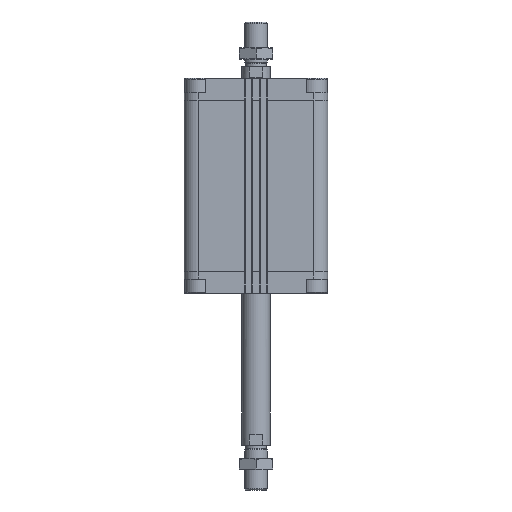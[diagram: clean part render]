
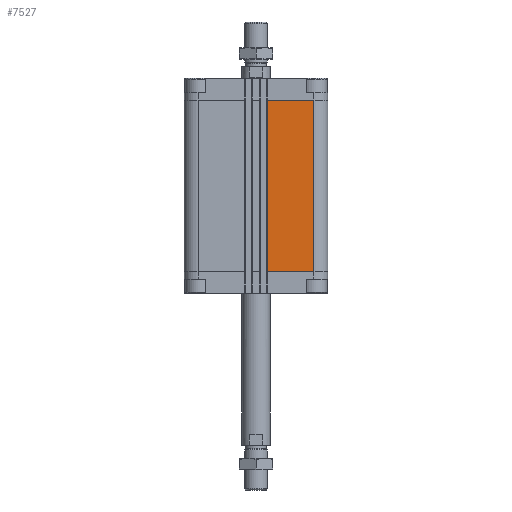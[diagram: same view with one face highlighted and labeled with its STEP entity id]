
A CAD part, front view. The second image highlights one B-rep face of the part: STEP entity #7527.
In plain terms, the highlighted planar face has unit normal (0, -1, 0).
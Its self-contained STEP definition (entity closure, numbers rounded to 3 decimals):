
#121 = EDGE_CURVE ( 'NONE', #14618, #20278, #10190, .T. ) ;
#2041 = DIRECTION ( 'NONE',  ( 0., 0., 1. ) ) ;
#3444 = CARTESIAN_POINT ( 'NONE',  ( 51.5, -64., -172. ) ) ;
#4201 = ORIENTED_EDGE ( 'NONE', *, *, #121, .T. ) ;
#4490 = EDGE_CURVE ( 'NONE', #14618, #13882, #16380, .T. ) ;
#4864 = DIRECTION ( 'NONE',  ( -1., 0., 0. ) ) ;
#5070 = VECTOR ( 'NONE', #12918, 1000. ) ;
#6779 = ORIENTED_EDGE ( 'NONE', *, *, #11709, .F. ) ;
#7527 = ADVANCED_FACE ( 'NONE', ( #18851 ), #17108, .T. ) ;
#8440 = DIRECTION ( 'NONE',  ( 1., 0., 0. ) ) ;
#9874 = LINE ( 'NONE', #18608, #15830 ) ;
#10032 = CARTESIAN_POINT ( 'NONE',  ( 9.95, -64., -19.5 ) ) ;
#10068 = CARTESIAN_POINT ( 'NONE',  ( 9.95, -64., -172. ) ) ;
#10190 = LINE ( 'NONE', #10068, #14759 ) ;
#10244 = VERTEX_POINT ( 'NONE', #11658 ) ;
#11409 = DIRECTION ( 'NONE',  ( 1., 0., 0. ) ) ;
#11658 = CARTESIAN_POINT ( 'NONE',  ( 51.5, -64., -19.5 ) ) ;
#11709 = EDGE_CURVE ( 'NONE', #13882, #10244, #9874, .T. ) ;
#12918 = DIRECTION ( 'NONE',  ( 0., 0., 1. ) ) ;
#13882 = VERTEX_POINT ( 'NONE', #10032 ) ;
#14539 = ORIENTED_EDGE ( 'NONE', *, *, #4490, .F. ) ;
#14554 = LINE ( 'NONE', #21636, #5070 ) ;
#14618 = VERTEX_POINT ( 'NONE', #21529 ) ;
#14759 = VECTOR ( 'NONE', #8440, 1000. ) ;
#15367 = CARTESIAN_POINT ( 'NONE',  ( 9.95, -64., -172. ) ) ;
#15658 = AXIS2_PLACEMENT_3D ( 'NONE', #15367, #20826, #4864 ) ;
#15830 = VECTOR ( 'NONE', #11409, 1000. ) ;
#16380 = LINE ( 'NONE', #18016, #16680 ) ;
#16433 = EDGE_LOOP ( 'NONE', ( #6779, #14539, #4201, #17063 ) ) ;
#16680 = VECTOR ( 'NONE', #2041, 1000. ) ;
#17063 = ORIENTED_EDGE ( 'NONE', *, *, #18912, .T. ) ;
#17108 = PLANE ( 'NONE',  #15658 ) ;
#18016 = CARTESIAN_POINT ( 'NONE',  ( 9.95, -64., -172. ) ) ;
#18608 = CARTESIAN_POINT ( 'NONE',  ( 9.95, -64., -19.5 ) ) ;
#18851 = FACE_OUTER_BOUND ( 'NONE', #16433, .T. ) ;
#18912 = EDGE_CURVE ( 'NONE', #20278, #10244, #14554, .T. ) ;
#20278 = VERTEX_POINT ( 'NONE', #3444 ) ;
#20826 = DIRECTION ( 'NONE',  ( 0., -1., 0. ) ) ;
#21529 = CARTESIAN_POINT ( 'NONE',  ( 9.95, -64., -172. ) ) ;
#21636 = CARTESIAN_POINT ( 'NONE',  ( 51.5, -64., -172. ) ) ;
